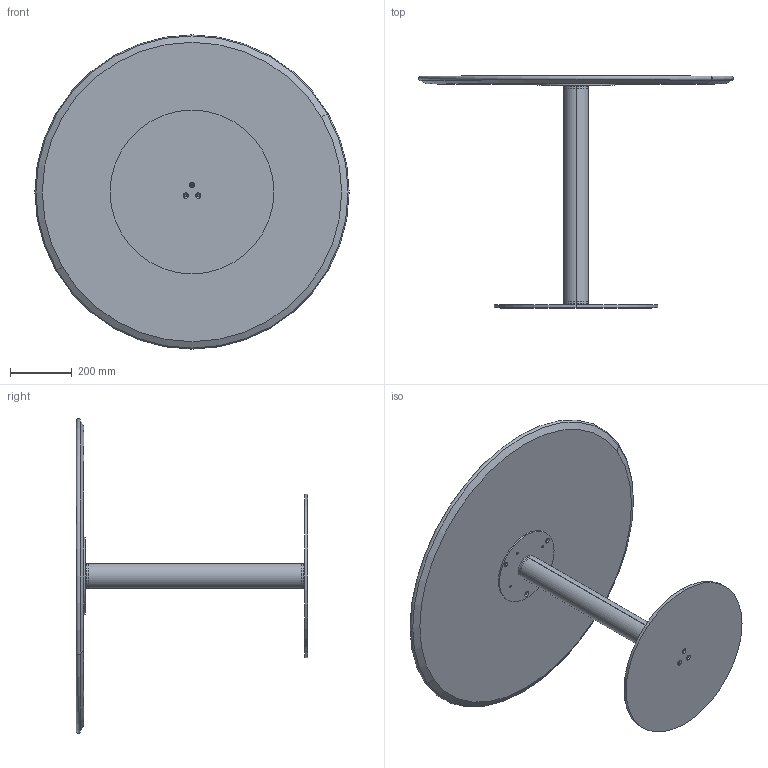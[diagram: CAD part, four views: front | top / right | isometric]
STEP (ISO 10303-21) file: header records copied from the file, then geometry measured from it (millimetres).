
FILE_DESCRIPTION (( 'STEP AP203' ), '1' );
FILE_NAME ('CB30A.STEP', '2024-08-08T08:33:52', ( '' ), ( '' ), 'SwSTEP 2.0', 'SolidWorks 2022', '' );
FILE_SCHEMA (( 'CONFIG_CONTROL_DESIGN' ));
Length unit declared in the file: millimetre
Products named in the file (7): CBS200000PST-00-CONTROPIASTRA PER PIASTRA D.25cm GREZZO_250; C1XCRMXX-00-piani Rotondi Cristallo_C03 D.100cm; Assieme piani incassatti cristallo_Ø100cm; CBS000000COL-00-CILINDRO BISTRO COLONNA H75; BOMB0001-00-PIANO LEGNO CON INCASSO Ø100_MDF per Ø100cm; CB30A; CBS000000BAS-00-BISTRO PIASTRA INFERIORE_D.530
Assembly tree (6 placements, depth 3):
  CB30A
    CBS000000BAS-00-BISTRO PIASTRA INFERIORE_D.530
    CBS200000PST-00-CONTROPIASTRA PER PIASTRA D.25cm GREZZO_250
    CBS000000COL-00-CILINDRO BISTRO COLONNA H75
    Assieme piani incassatti cristallo_Ø100cm
      BOMB0001-00-PIANO LEGNO CON INCASSO Ø100_MDF per Ø100cm
      C1XCRMXX-00-piani Rotondi Cristallo_C03 D.100cm
Bounding box: 1017 x 750 x 1017 mm (x, y, z)
Volume: 25701499.9 mm3; surface area: 4211519.2 mm2
Topology: 7 solids, 7 shells, 107 faces, 248 edges, 156 vertices
Faces by surface type: cylinder 62, cone 28, plane 15, torus 2
Entity records: 3933 total; most frequent: DIRECTION 640, CARTESIAN_POINT 521, ORIENTED_EDGE 496, AXIS2_PLACEMENT_3D 275, EDGE_CURVE 248, CIRCLE 158, EDGE_LOOP 156, VERTEX_POINT 156
